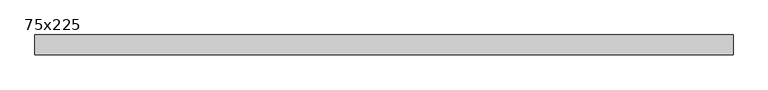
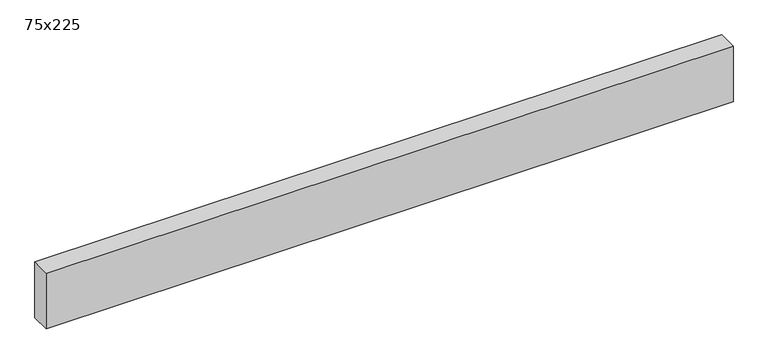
"""IFC4 building model written with IfcOpenShell, lengths in millimetres: beam geometry, Madrier : 75x225."""

import ifcopenshell
import ifcopenshell.guid

model = None  # the IFC model being written
_history = None  # IfcOwnerHistory: only IFC2X3 demands one
_inside = {}  # id of a spatial element -> (the spatial element, [elements in it])
_under = {}  # id of a project, library or spatial element -> (it, [spatial elements below it])
_declared = {}  # id of a project -> (the project, [libraries it declares])
_typed = {}  # id of a type object -> (the type object, [elements of that type])
_made_of = {}  # id of a material, layer set ... -> (it, [elements and type objects made of it])


def new_model(schema):
    """Start an empty IFC model of exactly this schema.

    Asked for "IFC4X3", IfcOpenShell would pick the latest addendum, in which some entities
    have other attributes; the version numbers below select the first issue.
    IFC2X3 requires an IfcOwnerHistory on every rooted entity: one is made here for all.
    """
    global model, _history
    if schema == "IFC4X3":
        model = ifcopenshell.file(schema_version=(4, 3, 0, 0))
    else:
        model = ifcopenshell.file(schema=schema)
    _inside.clear()
    _under.clear()
    _declared.clear()
    _typed.clear()
    _made_of.clear()
    _history = None
    if model.schema == "IFC2X3":
        org = make("IfcOrganization", Name="unknown")
        user = make(
            "IfcPersonAndOrganization",
            ThePerson=make("IfcPerson", FamilyName="unknown"),
            TheOrganization=org,
        )
        app = make(
            "IfcApplication",
            ApplicationDeveloper=org,
            Version="unknown",
            ApplicationFullName="unknown",
            ApplicationIdentifier="unknown",
        )
        _history = make(
            "IfcOwnerHistory",
            OwningUser=user,
            OwningApplication=app,
            ChangeAction="ADDED",
            CreationDate=0,
        )
    return model


def make(cls, **values):
    """One entity of the class cls with the attributes given. An attribute that is None is left unset."""
    return model.create_entity(
        cls, **{name: value for name, value in values.items() if value is not None}
    )


def rooted(cls, **values):
    """An entity with a GlobalId (a new one), such as an element, a storey or a relation."""
    return make(cls, GlobalId=ifcopenshell.guid.new(), OwnerHistory=_history, **values)


def si_unit(unit_type, name, prefix=None):
    """IfcSIUnit, for example si_unit("LENGTHUNIT", "METRE", prefix="MILLI")."""
    return make("IfcSIUnit", UnitType=unit_type, Prefix=prefix, Name=name)


def assignment(units):
    """IfcUnitAssignment: the units of a project."""
    return None if units is None else make("IfcUnitAssignment", Units=units)


def point(xyz):
    """IfcCartesianPoint."""
    return None if xyz is None else make("IfcCartesianPoint", Coordinates=xyz)


def direction(xyz):
    """IfcDirection."""
    return None if xyz is None else make("IfcDirection", DirectionRatios=xyz)


def frame(location, z_axis=None, x_axis=None):
    """IfcAxis2Placement3D, a coordinate frame: its origin and axes. An axis left out is left unset."""
    return make(
        "IfcAxis2Placement3D",
        Location=point(location),
        Axis=direction(z_axis),
        RefDirection=direction(x_axis),
    )


def origin():
    """The frame at (0, 0, 0) with its axes left unset."""
    return frame((0.0, 0.0, 0.0))


def place(relative_to, where):
    """IfcLocalPlacement: puts the frame where relative to a parent placement (None: the world)."""
    return make(
        "IfcLocalPlacement", PlacementRelTo=relative_to, RelativePlacement=where
    )


def context(
    kind, dimensions, precision=None, world=None, true_north=None, identifier=None
):
    """IfcGeometricRepresentationContext, for example the 3D "Model" context."""
    return make(
        "IfcGeometricRepresentationContext",
        ContextIdentifier=identifier,
        ContextType=kind,
        CoordinateSpaceDimension=dimensions,
        Precision=precision,
        WorldCoordinateSystem=world,
        TrueNorth=true_north,
    )


def project(units=None, contexts=None):
    """IfcProject with its units and contexts."""
    return rooted(
        "IfcProject",
        Name="project",
        RepresentationContexts=contexts,
        UnitsInContext=assignment(units),
    )


def spatial(cls, under=None, at=None, **own):
    """A site, building, storey or space (cls), placed at a placement, below another one or the project."""
    s = rooted(cls, ObjectPlacement=at, **own)
    if under is not None:
        _under.setdefault(under.id(), (under, []))[1].append(s)
    return s


def polyline(points):
    """IfcPolyline through the points."""
    return make("IfcPolyline", Points=[point(p) for p in points])


def outline(outer, holes=None, kind="AREA"):
    """IfcArbitraryClosedProfileDef: a profile drawn as a closed curve; with holes, ...WithVoids."""
    if holes is None:
        return make("IfcArbitraryClosedProfileDef", ProfileType=kind, OuterCurve=outer)
    return make(
        "IfcArbitraryProfileDefWithVoids",
        ProfileType=kind,
        OuterCurve=outer,
        InnerCurves=holes,
    )


def extrude(swept, where, along, depth):
    """IfcExtrudedAreaSolid: the profile swept, set in the frame where, extruded along a direction by depth."""
    return make(
        "IfcExtrudedAreaSolid",
        SweptArea=swept,
        Position=where,
        ExtrudedDirection=direction(along),
        Depth=depth,
    )


def shape(context_of_items, identifier, shape_type, items):
    """IfcShapeRepresentation: the items that make up one representation, for example the "Body"."""
    return make(
        "IfcShapeRepresentation",
        ContextOfItems=context_of_items,
        RepresentationIdentifier=identifier,
        RepresentationType=shape_type,
        Items=items,
    )


def source(mapping_origin, context_of_items, identifier, shape_type, items):
    """IfcRepresentationMap: a shape defined once, which mapped items show again and again."""
    return make(
        "IfcRepresentationMap",
        MappingOrigin=mapping_origin,
        MappedRepresentation=shape(context_of_items, identifier, shape_type, items),
    )


def transform(
    local_origin,
    x_axis=None,
    y_axis=None,
    z_axis=None,
    scale=None,
    scale2=None,
    scale3=None,
    uniform=True,
):
    """IfcCartesianTransformationOperator3D, or its non-uniform kind. x_axis, y_axis, z_axis: its Axis1, 2, 3."""
    if uniform:
        return make(
            "IfcCartesianTransformationOperator3D",
            Axis1=direction(x_axis),
            Axis2=direction(y_axis),
            LocalOrigin=point(local_origin),
            Scale=scale,
            Axis3=direction(z_axis),
        )
    return make(
        "IfcCartesianTransformationOperator3DnonUniform",
        Axis1=direction(x_axis),
        Axis2=direction(y_axis),
        LocalOrigin=point(local_origin),
        Scale=scale,
        Axis3=direction(z_axis),
        Scale2=scale2,
        Scale3=scale3,
    )


def mapped(mapping_source, mapping_target):
    """IfcMappedItem: shows the shape of a source again, moved by a transform."""
    return make(
        "IfcMappedItem", MappingSource=mapping_source, MappingTarget=mapping_target
    )


def made_of(thing, what):
    """Note that an element or type object is made of a material, layer set ...; save() writes the relation."""
    if what is not None:
        _made_of.setdefault(what.id(), (what, []))[1].append(thing)
    return thing


def element(
    cls,
    number,
    at=None,
    inside=None,
    cuts=None,
    type_object=None,
    material=None,
    context=None,
    identifier="Body",
    shape_type=None,
    held_by="IfcProductDefinitionShape",
    body=None,
    shapes=None,
    **own,
):
    """One element of the class cls, such as IfcWall. Its Tag is "e" and its number.

    at: its placement. inside: the storey or other place that contains it. cuts: it is an
    opening in that element (IfcRelVoidsElement). A single representation is given by context,
    identifier, shape_type and body (its items); several are given by shapes. held_by: the class
    of the entity that holds the representations. save() writes the other relations.
    """
    e = rooted(cls, Tag="e%d" % number, ObjectPlacement=at, **own)
    if body is not None:
        shapes = [shape(context, identifier, shape_type, body)]
    if shapes is not None:
        e.Representation = make(held_by, Representations=shapes)
    if inside is not None:
        _inside.setdefault(inside.id(), (inside, []))[1].append(e)
    if cuts is not None:
        rooted(
            "IfcRelVoidsElement", RelatingBuildingElement=cuts, RelatedOpeningElement=e
        )
    if type_object is not None:
        _typed.setdefault(type_object.id(), (type_object, []))[1].append(e)
    return made_of(e, material)


def aggregate(whole, parts):
    """IfcRelAggregates: a whole, such as a stair, and the parts it consists of."""
    return rooted("IfcRelAggregates", RelatingObject=whole, RelatedObjects=parts)


def save(model, path):
    """Write the relations noted so far, then the file.

    IfcRelAggregates (storeys below a building ...), IfcRelContainedInSpatialStructure (elements
    in a storey), IfcRelDefinesByType, IfcRelAssociatesMaterial and IfcRelDeclares: one each for
    every whole, place, type object, material and project.
    """
    for whole, parts in _under.values():
        aggregate(whole, parts)
    for where, things in _inside.values():
        rooted(
            "IfcRelContainedInSpatialStructure",
            RelatedElements=things,
            RelatingStructure=where,
        )
    for kind, things in _typed.values():
        rooted("IfcRelDefinesByType", RelatedObjects=things, RelatingType=kind)
    for what, things in _made_of.values():
        rooted("IfcRelAssociatesMaterial", RelatedObjects=things, RelatingMaterial=what)
    for by, libraries in _declared.values():
        rooted("IfcRelDeclares", RelatingContext=by, RelatedDefinitions=libraries)
    model.write(path)


def beam_75x225_0be4e628(model_context):
    return source(origin(), model_context, "Body", "SweptSolid", [
        extrude(outline(polyline([(1365.0, 37.5), (1365.0, -37.5), (-1255.0, -37.5), (-1255.0, 37.5), (1365.0, 37.5)])), frame((0.0, 0.0, -112.5), z_axis=(0.0, 0.0, 1.0), x_axis=(1.0, 0.0, 0.0)), (0.0, 0.0, 1.0), 225.0),
    ])


if __name__ == "__main__":
    model = new_model("IFC4")
    model_context = context("Model", 3, world=origin())
    ifc_project = project(units=[si_unit("LENGTHUNIT", "METRE", prefix="MILLI")], contexts=[model_context])
    site = spatial("IfcSite", under=ifc_project)
    building = spatial("IfcBuilding", under=site)
    placement = place(None, origin())
    beam_75x225_shape = beam_75x225_0be4e628(model_context)
    element("IfcBeam", 1, ObjectType="Madrier : 75x225", at=placement, inside=building, context=model_context, shape_type="MappedRepresentation", body=[
        mapped(beam_75x225_shape, transform((0.0, 0.0, 0.0), x_axis=(1.0, 0.0, 0.0), y_axis=(0.0, 1.0, 0.0), z_axis=(0.0, 0.0, 1.0))),
    ])
    save(model, "model.ifc")
